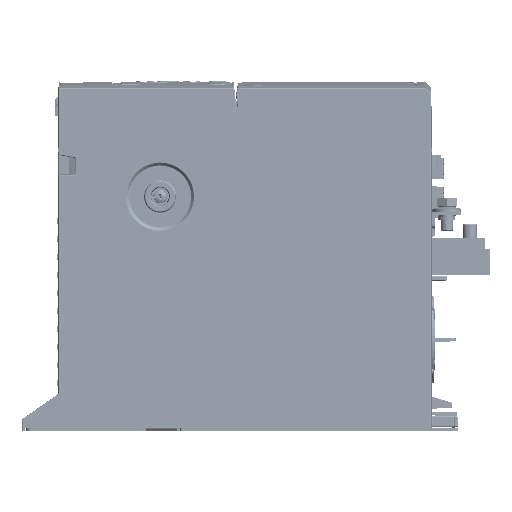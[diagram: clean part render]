
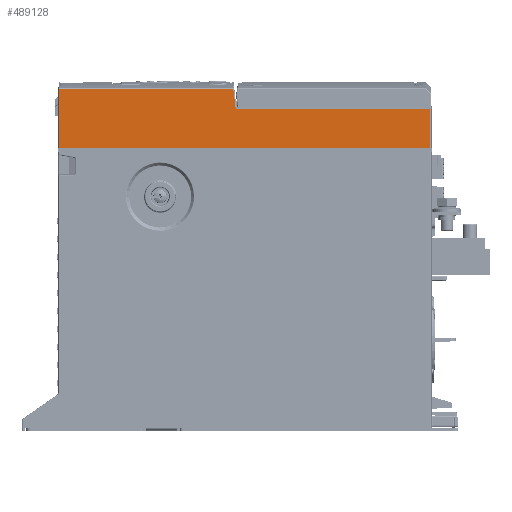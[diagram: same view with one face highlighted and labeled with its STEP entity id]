
A CAD part, left-side view. The second image highlights one B-rep face of the part: STEP entity #489128.
In plain terms, the highlighted planar face has unit normal (-1, 0, 0).
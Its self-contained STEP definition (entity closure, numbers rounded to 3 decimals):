
#132071=DIRECTION('',(0.,-0.122,-0.993));
#132072=VECTOR('',#132071,9.732);
#132073=CARTESIAN_POINT('',(-75.,-84.403,29.159));
#132074=LINE('',#132073,#132072);
#132078=DIRECTION('',(0.,0.,1.));
#132079=VECTOR('',#132078,18.7);
#132080=CARTESIAN_POINT('',(-75.,-179.5,0.8));
#132081=LINE('',#132080,#132079);
#132093=DIRECTION('',(0.,1.,0.));
#132094=VECTOR('',#132093,93.911);
#132095=CARTESIAN_POINT('',(-75.,-179.5,19.5));
#132096=LINE('',#132095,#132094);
#132198=DIRECTION('',(0.,-1.,0.));
#132199=VECTOR('',#132198,179.);
#132200=CARTESIAN_POINT('',(-75.,-0.5,0.8));
#132201=LINE('',#132200,#132199);
#132247=DIRECTION('',(0.,0.,-1.));
#132248=VECTOR('',#132247,28.359);
#132249=CARTESIAN_POINT('',(-75.,-0.5,29.159));
#132250=LINE('',#132249,#132248);
#132277=DIRECTION('',(0.,1.,0.));
#132278=VECTOR('',#132277,83.903);
#132279=CARTESIAN_POINT('',(-75.,-84.403,29.159));
#132280=LINE('',#132279,#132278);
#309401=CARTESIAN_POINT('',(-75.,-84.403,29.159));
#309402=CARTESIAN_POINT('',(-75.,-85.589,19.5));
#309403=VERTEX_POINT('',#309401);
#309404=VERTEX_POINT('',#309402);
#309405=CARTESIAN_POINT('',(-75.,-179.5,0.8));
#309406=CARTESIAN_POINT('',(-75.,-179.5,19.5));
#309407=VERTEX_POINT('',#309405);
#309408=VERTEX_POINT('',#309406);
#310835=CARTESIAN_POINT('',(-75.,-0.5,29.159));
#310836=VERTEX_POINT('',#310835);
#310839=CARTESIAN_POINT('',(-75.,-0.5,0.8));
#310840=VERTEX_POINT('',#310839);
#489110=CARTESIAN_POINT('',(-75.,-90.,14.979));
#489111=DIRECTION('',(1.,0.,0.));
#489112=DIRECTION('',(0.,0.,1.));
#489113=AXIS2_PLACEMENT_3D('',#489110,#489111,#489112);
#489114=PLANE('',#489113);
#489116=ORIENTED_EDGE('',*,*,#489115,.F.);
#489118=ORIENTED_EDGE('',*,*,#489117,.F.);
#489120=ORIENTED_EDGE('',*,*,#489119,.F.);
#489122=ORIENTED_EDGE('',*,*,#489121,.F.);
#489123=ORIENTED_EDGE('',*,*,#489091,.T.);
#489125=ORIENTED_EDGE('',*,*,#489124,.F.);
#489126=EDGE_LOOP('',(#489116,#489118,#489120,#489122,#489123,#489125));
#489127=FACE_OUTER_BOUND('',#489126,.F.);
#489128=ADVANCED_FACE('',(#489127),#489114,.F.);
#489091=EDGE_CURVE('',#309403,#309404,#132074,.T.);
#489115=EDGE_CURVE('',#309407,#309408,#132081,.T.);
#489117=EDGE_CURVE('',#310840,#309407,#132201,.T.);
#489119=EDGE_CURVE('',#310836,#310840,#132250,.T.);
#489121=EDGE_CURVE('',#309403,#310836,#132280,.T.);
#489124=EDGE_CURVE('',#309408,#309404,#132096,.T.);
